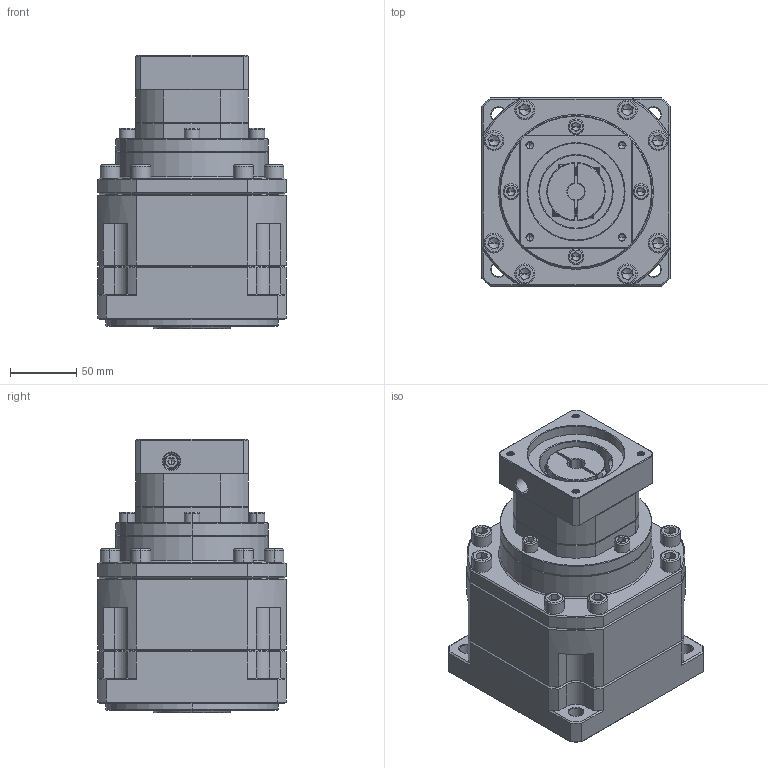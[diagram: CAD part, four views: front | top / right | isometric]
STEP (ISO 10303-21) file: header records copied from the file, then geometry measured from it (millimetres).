
FILE_DESCRIPTION (( 'STEP AP214' ), '1' );
FILE_NAME ('ZB142A-K35-L3-12.7-73-69.6X69.6-M6.step', '2023-03-18T08:16:23', ( '' ), ( '' ), 'SwSTEP 2.0', 'SolidWorks 2016', '' );
FILE_SCHEMA (( 'AUTOMOTIVE_DESIGN' ));
Length unit declared in the file: millimetre
Products named in the file (1): ZB142A-K35-L3-12.7-73-69.6X69.6-M6
Bounding box: 142 x 142 x 206.2 mm (x, y, z)
Volume: 2614633.6 mm3; surface area: 195216.1 mm2
Topology: 5 solids, 6 shells, 2201 faces, 5631 edges, 3545 vertices
Faces by surface type: plane 1045, cylinder 435, cone 370, bspline 292, torus 59
Entity records: 111033 total; most frequent: CARTESIAN_POINT 35930, ORIENTED_EDGE 11158, DIRECTION 9526, EDGE_CURVE 5579, VERTEX_POINT 3545, LINE 3536, VECTOR 3536, AXIS2_PLACEMENT_3D 2995
